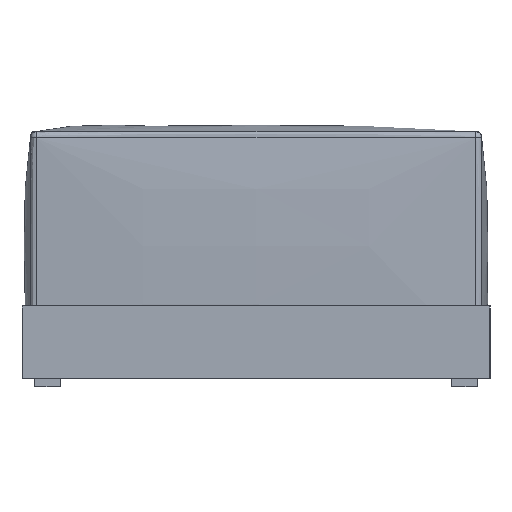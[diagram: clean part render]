
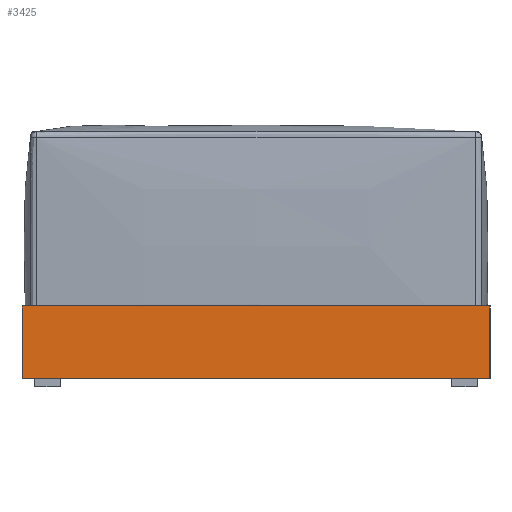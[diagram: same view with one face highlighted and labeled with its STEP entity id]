
A CAD part, left-side view. The second image highlights one B-rep face of the part: STEP entity #3425.
In plain terms, the highlighted planar face has unit normal (-1, 0, 0).
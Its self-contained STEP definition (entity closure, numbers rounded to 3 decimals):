
#119=PLANE('',#3835);
#251=LINE('',#15445,#467);
#252=LINE('',#15447,#468);
#253=LINE('',#15449,#469);
#254=LINE('',#15450,#470);
#467=VECTOR('',#4449,10.);
#468=VECTOR('',#4450,10.);
#469=VECTOR('',#4451,10.);
#470=VECTOR('',#4452,10.);
#1017=FACE_OUTER_BOUND('',#1269,.T.);
#1269=EDGE_LOOP('',(#2873,#2874,#2875,#2876));
#1657=VERTEX_POINT('',#15443);
#1658=VERTEX_POINT('',#15444);
#1659=VERTEX_POINT('',#15446);
#1660=VERTEX_POINT('',#15448);
#2081=EDGE_CURVE('',#1657,#1658,#251,.T.);
#2082=EDGE_CURVE('',#1657,#1659,#252,.T.);
#2083=EDGE_CURVE('',#1660,#1659,#253,.T.);
#2084=EDGE_CURVE('',#1658,#1660,#254,.T.);
#2873=ORIENTED_EDGE('',*,*,#2081,.F.);
#2874=ORIENTED_EDGE('',*,*,#2082,.T.);
#2875=ORIENTED_EDGE('',*,*,#2083,.F.);
#2876=ORIENTED_EDGE('',*,*,#2084,.F.);
#3425=ADVANCED_FACE('',(#1017),#119,.T.);
#3835=AXIS2_PLACEMENT_3D('',#15442,#4447,#4448);
#4447=DIRECTION('center_axis',(-1.,0.,0.));
#4448=DIRECTION('ref_axis',(0.,-1.,0.));
#4449=DIRECTION('',(0.,1.,0.));
#4450=DIRECTION('',(0.,0.,1.));
#4451=DIRECTION('',(0.,-1.,0.));
#4452=DIRECTION('',(0.,0.,1.));
#15442=CARTESIAN_POINT('Origin',(-1200.,550.,0.));
#15443=CARTESIAN_POINT('',(-1200.,-550.,0.));
#15444=CARTESIAN_POINT('',(-1200.,550.,0.));
#15445=CARTESIAN_POINT('',(-1200.,-550.,0.));
#15446=CARTESIAN_POINT('',(-1200.,-550.,170.));
#15447=CARTESIAN_POINT('',(-1200.,-550.,0.));
#15448=CARTESIAN_POINT('',(-1200.,550.,170.));
#15449=CARTESIAN_POINT('',(-1200.,-550.,170.));
#15450=CARTESIAN_POINT('',(-1200.,550.,0.));
